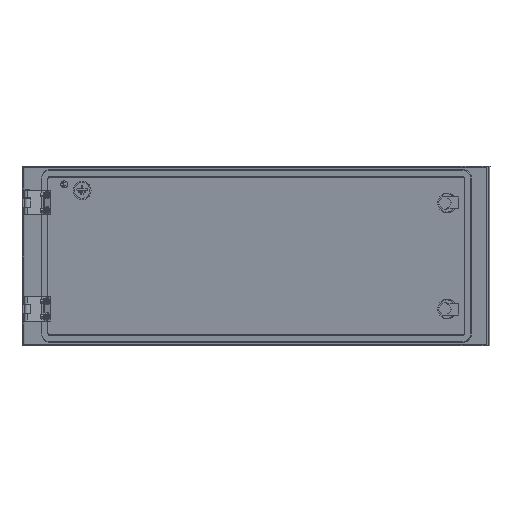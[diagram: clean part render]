
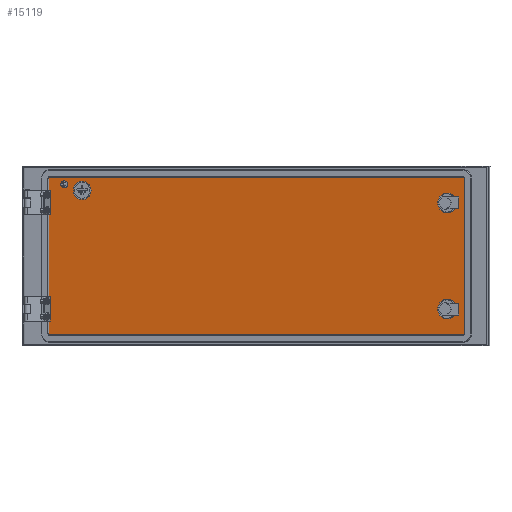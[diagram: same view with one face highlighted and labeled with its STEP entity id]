
A CAD part, left-side view. The second image highlights one B-rep face of the part: STEP entity #15119.
In plain terms, the highlighted planar face has unit normal (-0.966, 0.259, 0).
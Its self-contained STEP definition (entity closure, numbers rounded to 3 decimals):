
#11 = EDGE_CURVE ( 'NONE', #14583, #15209, #13711, .T. ) ;
#214 = CARTESIAN_POINT ( 'NONE',  ( -179.896, -657.671, -103. ) ) ;
#217 = ORIENTED_EDGE ( 'NONE', *, *, #11080, .T. ) ;
#500 = EDGE_LOOP ( 'NONE', ( #7648, #20758 ) ) ;
#927 = VERTEX_POINT ( 'NONE', #1084 ) ;
#1084 = CARTESIAN_POINT ( 'NONE',  ( -179.378, -655.739, 155. ) ) ;
#1092 = ORIENTED_EDGE ( 'NONE', *, *, #10286, .F. ) ;
#1094 = AXIS2_PLACEMENT_3D ( 'NONE', #14179, #20592, #6200 ) ;
#1161 = FACE_BOUND ( 'NONE', #3037, .T. ) ;
#1178 = DIRECTION ( 'NONE',  ( -0.966, 0.259, 0. ) ) ;
#1260 = ORIENTED_EDGE ( 'NONE', *, *, #18678, .F. ) ;
#1262 = AXIS2_PLACEMENT_3D ( 'NONE', #8838, #13654, #18700 ) ;
#1270 = CARTESIAN_POINT ( 'NONE',  ( -4.21, -1.343, 142.334 ) ) ;
#1469 = CARTESIAN_POINT ( 'NONE',  ( -176.534, -645.113, 112.5 ) ) ;
#1493 = CARTESIAN_POINT ( 'NONE',  ( -172.397, -629.657, 112.5 ) ) ;
#1627 = ORIENTED_EDGE ( 'NONE', *, *, #15207, .F. ) ;
#1737 = VECTOR ( 'NONE', #4609, 1000. ) ;
#2600 = CIRCLE ( 'NONE', #1262, 15. ) ;
#2615 = CIRCLE ( 'NONE', #19392, 2. ) ;
#2731 = DIRECTION ( 'NONE',  ( 0., 0., -1. ) ) ;
#3037 = EDGE_LOOP ( 'NONE', ( #14773, #9686 ) ) ;
#3163 = PLANE ( 'NONE',  #14502 ) ;
#3178 = DIRECTION ( 'NONE',  ( 0.259, 0.966, 0. ) ) ;
#3179 = CARTESIAN_POINT ( 'NONE',  ( -3.546, 1.135, 143. ) ) ;
#3349 = CIRCLE ( 'NONE', #16749, 2.65 ) ;
#3677 = DIRECTION ( 'NONE',  ( 0.966, -0.259, 0. ) ) ;
#3886 = VERTEX_POINT ( 'NONE', #15577 ) ;
#3937 = DIRECTION ( 'NONE',  ( 0.966, -0.259, 0. ) ) ;
#3990 = DIRECTION ( 'NONE',  ( 0.259, 0.966, 0. ) ) ;
#4102 = DIRECTION ( 'NONE',  ( -0.966, 0.259, 0. ) ) ;
#4120 = VERTEX_POINT ( 'NONE', #17583 ) ;
#4189 = DIRECTION ( 'NONE',  ( -0.259, -0.966, 0. ) ) ;
#4240 = VERTEX_POINT ( 'NONE', #11986 ) ;
#4436 = VERTEX_POINT ( 'NONE', #4643 ) ;
#4609 = DIRECTION ( 'NONE',  ( 0., 0., 1. ) ) ;
#4643 = CARTESIAN_POINT ( 'NONE',  ( -179.378, -655.739, -105. ) ) ;
#4749 = ORIENTED_EDGE ( 'NONE', *, *, #6294, .F. ) ;
#4754 = VERTEX_POINT ( 'NONE', #1469 ) ;
#4817 = ORIENTED_EDGE ( 'NONE', *, *, #8407, .T. ) ;
#5178 = ORIENTED_EDGE ( 'NONE', *, *, #11, .F. ) ;
#5838 = AXIS2_PLACEMENT_3D ( 'NONE', #1493, #19442, #3178 ) ;
#5863 = LINE ( 'NONE', #14040, #10118 ) ;
#5973 = CARTESIAN_POINT ( 'NONE',  ( 2.918, 25.285, -105. ) ) ;
#6097 = CARTESIAN_POINT ( 'NONE',  ( -131.283, -476.065, 991.5 ) ) ;
#6181 = LINE ( 'NONE', #14352, #1737 ) ;
#6200 = DIRECTION ( 'NONE',  ( 0.259, 0.966, 0. ) ) ;
#6294 = EDGE_CURVE ( 'NONE', #4120, #927, #5863, .T. ) ;
#6602 = CARTESIAN_POINT ( 'NONE',  ( -172.397, -629.657, 112.5 ) ) ;
#6854 = VECTOR ( 'NONE', #12370, 1000. ) ;
#6880 = EDGE_CURVE ( 'NONE', #3886, #19740, #2600, .T. ) ;
#7112 = EDGE_CURVE ( 'NONE', #8703, #4120, #2615, .T. ) ;
#7261 = VERTEX_POINT ( 'NONE', #13841 ) ;
#7566 = FACE_BOUND ( 'NONE', #17246, .T. ) ;
#7648 = ORIENTED_EDGE ( 'NONE', *, *, #19425, .F. ) ;
#7772 = DIRECTION ( 'NONE',  ( -0.966, 0.259, 0. ) ) ;
#7874 = CARTESIAN_POINT ( 'NONE',  ( -179.378, -655.739, -103. ) ) ;
#7884 = FACE_BOUND ( 'NONE', #500, .T. ) ;
#8193 = VERTEX_POINT ( 'NONE', #10645 ) ;
#8407 = EDGE_CURVE ( 'NONE', #4436, #15209, #15038, .T. ) ;
#8508 = VERTEX_POINT ( 'NONE', #9010 ) ;
#8525 = CARTESIAN_POINT ( 'NONE',  ( -3.546, 1.135, 143. ) ) ;
#8620 = EDGE_CURVE ( 'NONE', #14066, #4754, #16065, .T. ) ;
#8703 = VERTEX_POINT ( 'NONE', #14973 ) ;
#8717 = EDGE_CURVE ( 'NONE', #8193, #7261, #16743, .T. ) ;
#8792 = CARTESIAN_POINT ( 'NONE',  ( -172.397, -629.657, -62.5 ) ) ;
#8806 = CIRCLE ( 'NONE', #1094, 16. ) ;
#8838 = CARTESIAN_POINT ( 'NONE',  ( -11.304, -27.845, 133. ) ) ;
#8845 = CIRCLE ( 'NONE', #11850, 2. ) ;
#8988 = CARTESIAN_POINT ( 'NONE',  ( -7.425, -13.355, 133. ) ) ;
#9010 = CARTESIAN_POINT ( 'NONE',  ( -2.883, 3.612, 143.666 ) ) ;
#9434 = EDGE_LOOP ( 'NONE', ( #12238, #15928, #217, #4817, #5178, #1092, #4749, #10046 ) ) ;
#9686 = ORIENTED_EDGE ( 'NONE', *, *, #10901, .F. ) ;
#9717 = VERTEX_POINT ( 'NONE', #1270 ) ;
#10046 = ORIENTED_EDGE ( 'NONE', *, *, #7112, .F. ) ;
#10118 = VECTOR ( 'NONE', #4189, 1000. ) ;
#10139 = ORIENTED_EDGE ( 'NONE', *, *, #8717, .F. ) ;
#10266 = DIRECTION ( 'NONE',  ( -0.966, 0.259, 0. ) ) ;
#10286 = EDGE_CURVE ( 'NONE', #927, #14583, #17062, .T. ) ;
#10341 = DIRECTION ( 'NONE',  ( 0., 0., 1. ) ) ;
#10364 = DIRECTION ( 'NONE',  ( 0.259, 0.966, 0. ) ) ;
#10553 = CARTESIAN_POINT ( 'NONE',  ( 2.918, 25.285, -103. ) ) ;
#10645 = CARTESIAN_POINT ( 'NONE',  ( -168.26, -614.201, -62.5 ) ) ;
#10711 = FACE_BOUND ( 'NONE', #14469, .T. ) ;
#10817 = LINE ( 'NONE', #5973, #6854 ) ;
#10847 = DIRECTION ( 'NONE',  ( 0.259, 0.966, 0. ) ) ;
#10901 = EDGE_CURVE ( 'NONE', #4754, #14066, #18580, .T. ) ;
#11069 = CIRCLE ( 'NONE', #18110, 2.65 ) ;
#11080 = EDGE_CURVE ( 'NONE', #12074, #4436, #10817, .T. ) ;
#11316 = VECTOR ( 'NONE', #16975, 1000. ) ;
#11651 = DIRECTION ( 'NONE',  ( -0.966, 0.259, 0. ) ) ;
#11694 = CARTESIAN_POINT ( 'NONE',  ( -179.378, -655.739, 153. ) ) ;
#11753 = ORIENTED_EDGE ( 'NONE', *, *, #20319, .F. ) ;
#11850 = AXIS2_PLACEMENT_3D ( 'NONE', #10553, #16948, #16740 ) ;
#11986 = CARTESIAN_POINT ( 'NONE',  ( 3.435, 27.217, -103. ) ) ;
#12074 = VERTEX_POINT ( 'NONE', #19863 ) ;
#12238 = ORIENTED_EDGE ( 'NONE', *, *, #16376, .F. ) ;
#12370 = DIRECTION ( 'NONE',  ( -0.259, -0.966, 0. ) ) ;
#12493 = DIRECTION ( 'NONE',  ( 0.966, -0.259, 0. ) ) ;
#12690 = FACE_OUTER_BOUND ( 'NONE', #9434, .T. ) ;
#12991 = DIRECTION ( 'NONE',  ( 0.259, 0.966, 0. ) ) ;
#13222 = CARTESIAN_POINT ( 'NONE',  ( 2.918, 25.285, 153. ) ) ;
#13654 = DIRECTION ( 'NONE',  ( -0.966, 0.259, 0. ) ) ;
#13711 = LINE ( 'NONE', #13825, #11316 ) ;
#13825 = CARTESIAN_POINT ( 'NONE',  ( -179.896, -657.671, 153. ) ) ;
#13841 = CARTESIAN_POINT ( 'NONE',  ( -176.534, -645.113, -62.5 ) ) ;
#13958 = DIRECTION ( 'NONE',  ( 0., 0., -1. ) ) ;
#14040 = CARTESIAN_POINT ( 'NONE',  ( 2.918, 25.285, 155. ) ) ;
#14066 = VERTEX_POINT ( 'NONE', #18381 ) ;
#14179 = CARTESIAN_POINT ( 'NONE',  ( -172.397, -629.657, -62.5 ) ) ;
#14352 = CARTESIAN_POINT ( 'NONE',  ( 3.435, 27.217, 25. ) ) ;
#14389 = AXIS2_PLACEMENT_3D ( 'NONE', #8792, #10266, #10364 ) ;
#14469 = EDGE_LOOP ( 'NONE', ( #11753, #1260 ) ) ;
#14502 = AXIS2_PLACEMENT_3D ( 'NONE', #6097, #12493, #13958 ) ;
#14583 = VERTEX_POINT ( 'NONE', #20247 ) ;
#14773 = ORIENTED_EDGE ( 'NONE', *, *, #8620, .F. ) ;
#14973 = CARTESIAN_POINT ( 'NONE',  ( 3.435, 27.217, 153. ) ) ;
#15038 = CIRCLE ( 'NONE', #17432, 2. ) ;
#15119 = ADVANCED_FACE ( 'NONE', ( #12690, #1161, #7566, #10711, #7884 ), #3163, .F. ) ;
#15207 = EDGE_CURVE ( 'NONE', #7261, #8193, #8806, .T. ) ;
#15209 = VERTEX_POINT ( 'NONE', #214 ) ;
#15577 = CARTESIAN_POINT ( 'NONE',  ( -15.182, -42.335, 133. ) ) ;
#15928 = ORIENTED_EDGE ( 'NONE', *, *, #18108, .T. ) ;
#15935 = DIRECTION ( 'NONE',  ( -0.966, 0.259, 0. ) ) ;
#16065 = CIRCLE ( 'NONE', #20436, 16. ) ;
#16376 = EDGE_CURVE ( 'NONE', #4240, #8703, #6181, .T. ) ;
#16740 = DIRECTION ( 'NONE',  ( 0.259, 0.966, 0. ) ) ;
#16743 = CIRCLE ( 'NONE', #14389, 16. ) ;
#16749 = AXIS2_PLACEMENT_3D ( 'NONE', #3179, #1178, #10847 ) ;
#16948 = DIRECTION ( 'NONE',  ( -0.966, 0.259, 0. ) ) ;
#16975 = DIRECTION ( 'NONE',  ( 0., 0., -1. ) ) ;
#17062 = CIRCLE ( 'NONE', #18754, 2. ) ;
#17246 = EDGE_LOOP ( 'NONE', ( #10139, #1627 ) ) ;
#17432 = AXIS2_PLACEMENT_3D ( 'NONE', #7874, #7772, #2731 ) ;
#17583 = CARTESIAN_POINT ( 'NONE',  ( 2.918, 25.285, 155. ) ) ;
#18108 = EDGE_CURVE ( 'NONE', #4240, #12074, #8845, .T. ) ;
#18110 = AXIS2_PLACEMENT_3D ( 'NONE', #8525, #11651, #18285 ) ;
#18285 = DIRECTION ( 'NONE',  ( 0.259, 0.966, 0. ) ) ;
#18381 = CARTESIAN_POINT ( 'NONE',  ( -168.26, -614.201, 112.5 ) ) ;
#18580 = CIRCLE ( 'NONE', #5838, 16. ) ;
#18678 = EDGE_CURVE ( 'NONE', #8508, #9717, #3349, .T. ) ;
#18700 = DIRECTION ( 'NONE',  ( 0.259, 0.966, 0. ) ) ;
#18754 = AXIS2_PLACEMENT_3D ( 'NONE', #11694, #3937, #10341 ) ;
#19161 = AXIS2_PLACEMENT_3D ( 'NONE', #20053, #4102, #3990 ) ;
#19392 = AXIS2_PLACEMENT_3D ( 'NONE', #13222, #3677, #19849 ) ;
#19425 = EDGE_CURVE ( 'NONE', #19740, #3886, #20146, .T. ) ;
#19442 = DIRECTION ( 'NONE',  ( -0.966, 0.259, 0. ) ) ;
#19740 = VERTEX_POINT ( 'NONE', #8988 ) ;
#19849 = DIRECTION ( 'NONE',  ( 0.259, 0.966, 0. ) ) ;
#19863 = CARTESIAN_POINT ( 'NONE',  ( 2.918, 25.285, -105. ) ) ;
#20053 = CARTESIAN_POINT ( 'NONE',  ( -11.304, -27.845, 133. ) ) ;
#20146 = CIRCLE ( 'NONE', #19161, 15. ) ;
#20247 = CARTESIAN_POINT ( 'NONE',  ( -179.896, -657.671, 153. ) ) ;
#20319 = EDGE_CURVE ( 'NONE', #9717, #8508, #11069, .T. ) ;
#20436 = AXIS2_PLACEMENT_3D ( 'NONE', #6602, #15935, #12991 ) ;
#20592 = DIRECTION ( 'NONE',  ( -0.966, 0.259, 0. ) ) ;
#20758 = ORIENTED_EDGE ( 'NONE', *, *, #6880, .F. ) ;
